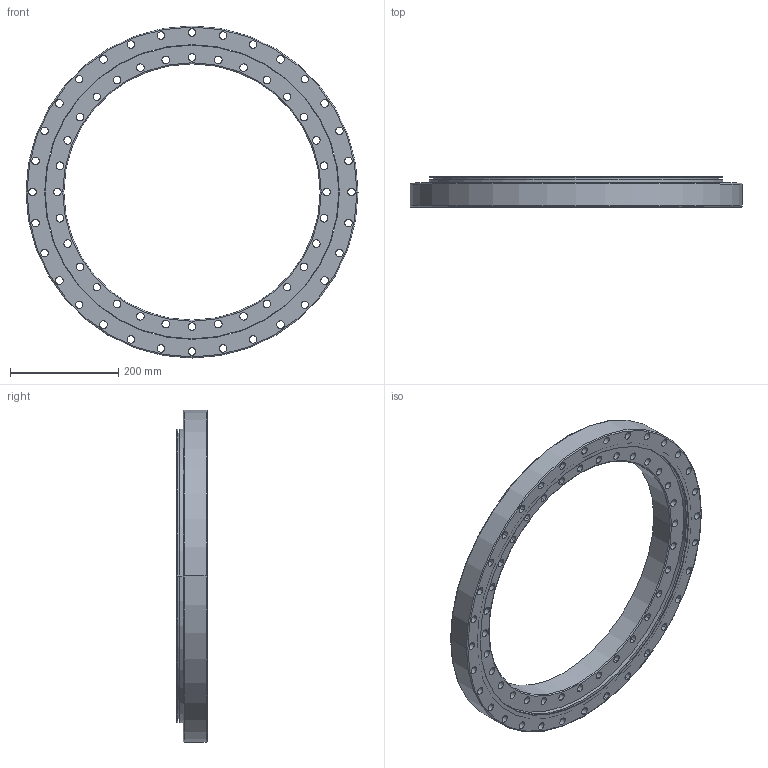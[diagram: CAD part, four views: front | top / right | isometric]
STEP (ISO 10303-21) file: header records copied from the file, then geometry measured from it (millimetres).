
FILE_DESCRIPTION((''),'2;1');
FILE_NAME('XSU140544','2015-10-13T',('Administrator'),(''),'PRO/ENGINEER BY PARAMETRIC TECHNOLOGY CORPORATION, 2010180','PRO/ENGINEER BY PARAMETRIC TECHNOLOGY CORPORATION, 2010180','');
FILE_SCHEMA(('AUTOMOTIVE_DESIGN_CC2 { 1 2 10303 214 -1 1 5 2 }'));
Length unit declared in the file: millimetre
Products named in the file (1): XSU140544
Bounding box: 614 x 56 x 614 mm (x, y, z)
Volume: 4352896.5 mm3; surface area: 720906.6 mm2
Topology: 2 solids, 2 shells, 170 faces, 468 edges, 306 vertices
Faces by surface type: cylinder 148, plane 8, cone 8, torus 6
Entity records: 5866 total; most frequent: DIRECTION 1120, CARTESIAN_POINT 944, ORIENTED_EDGE 936, AXIS2_PLACEMENT_3D 482, EDGE_CURVE 468, CIRCLE 312, VERTEX_POINT 306, EDGE_LOOP 306
